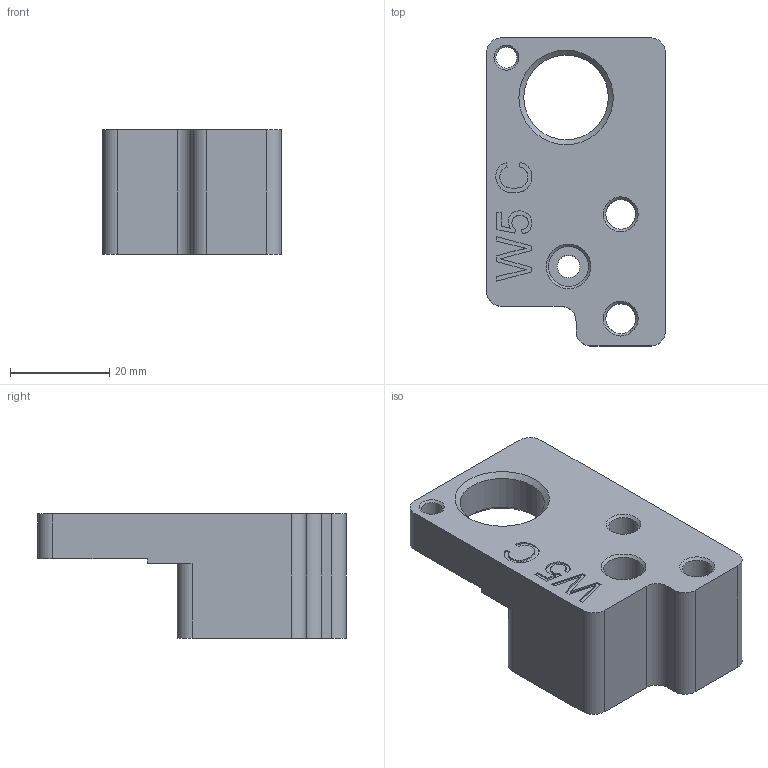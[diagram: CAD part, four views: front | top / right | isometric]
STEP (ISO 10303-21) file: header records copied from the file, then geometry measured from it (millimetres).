
FILE_DESCRIPTION(/* description */ (''),/* implementation_level */ '2;1');
FILE_NAME(/* name */ 'WHEELS-INSERT.11.stp',/* time_stamp */ '2018-05-25T14:13:55+02:00',/* author */ (''),/* organization */ (''),/* preprocessor_version */ 'ST-DEVELOPER v16.7',/* originating_system */ 'SIEMENS PLM Software NX 12.0',/* authorisation */ '');
FILE_SCHEMA (('AP203_CONFIGURATION_CONTROLLED_3D_DESIGN_OF_MECHANICAL_PARTS_AND_ASSEMBLIES_MIM_LF { 1 0 10303 403 2 1 2}'));
Length unit declared in the file: millimetre
Products named in the file (1): turc66A81BAD9zda
Bounding box: 36 x 62 x 25 mm (x, y, z)
Volume: 31608.7 mm3; surface area: 9409.5 mm2
Topology: 1 solids, 1 shells, 73 faces, 201 edges, 131 vertices
Faces by surface type: plane 32, cylinder 18, cone 13, extrusion 10
Full cylindrical faces by diameter (mm): 4.2 x5, 4.5 x1, 6 x2, 8 x1, 17 x1
Entity records: 2759 total; most frequent: CARTESIAN_POINT 1019, ORIENTED_EDGE 328, DIRECTION 289, EDGE_CURVE 164, VERTEX_POINT 121, EDGE_LOOP 113, AXIS2_PLACEMENT_3D 107, VECTOR 75
